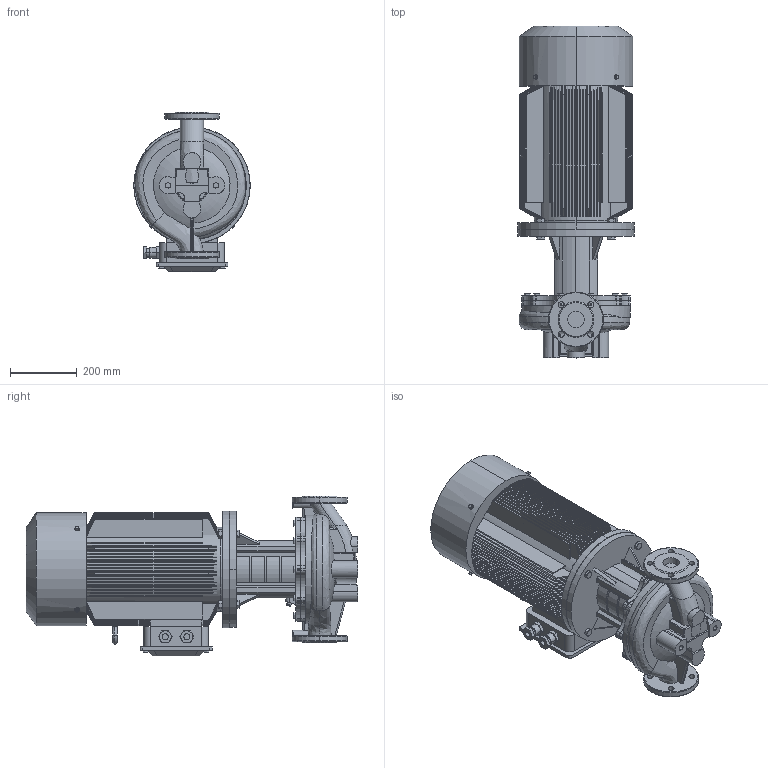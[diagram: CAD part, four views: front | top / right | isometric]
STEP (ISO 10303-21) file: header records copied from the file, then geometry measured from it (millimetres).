
FILE_DESCRIPTION (( 'STEP AP203' ), '1' );
FILE_NAME ('TD50-70G／2.STEP', '2026-09-07T02:22:07', ( '' ), ( '' ), 'SwSTEP 2.0', 'SolidWorks 2020', '' );
FILE_SCHEMA (( 'CONFIG_CONTROL_DESIGN' ));
Length unit declared in the file: millimetre
Products named in the file (1): TD50-70Gㄞ2
Bounding box: 350 x 996 x 480 mm (x, y, z)
Volume: 63269761.1 mm3; surface area: 4104429.6 mm2
Topology: 1 solids, 7 shells, 1624 faces, 4189 edges, 2646 vertices
Faces by surface type: plane 732, cylinder 428, cone 386, torus 49, bspline 27, sphere 2
Entity records: 68222 total; most frequent: CARTESIAN_POINT 29543, ORIENTED_EDGE 8370, DIRECTION 7797, EDGE_CURVE 4185, AXIS2_PLACEMENT_3D 3092, VERTEX_POINT 2646, EDGE_LOOP 1743, FACE_OUTER_BOUND 1624
